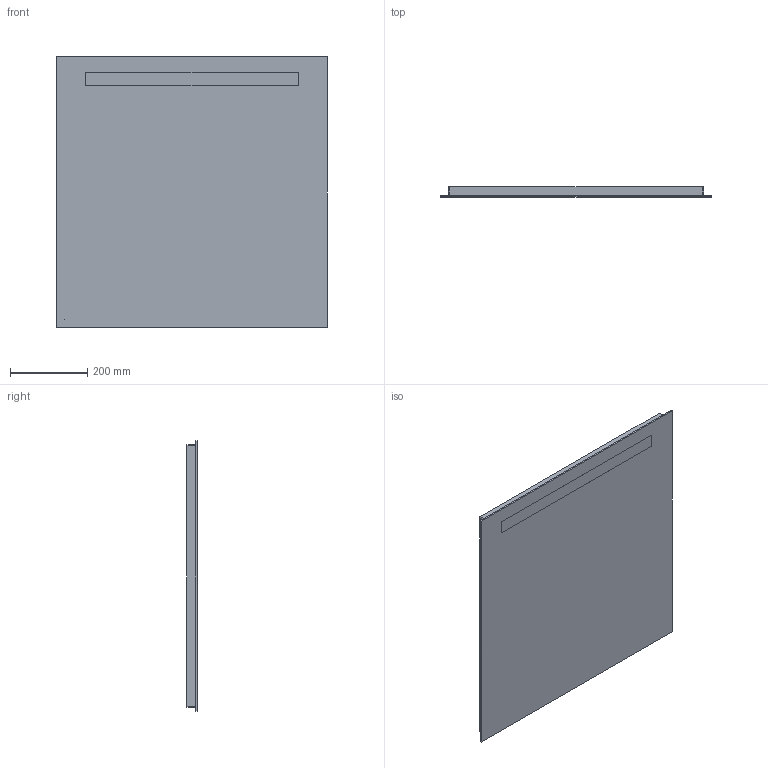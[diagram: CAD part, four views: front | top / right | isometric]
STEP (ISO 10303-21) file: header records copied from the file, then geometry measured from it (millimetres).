
FILE_DESCRIPTION(/* description */ (''),/* implementation_level */ '2;1');
FILE_NAME(/* name */ 'C:\Planerdaten\Export PLA\502.806.00.1\stp\502806.stp',/* time_stamp */ '2022-12-02T15:10:27+01:00',/* author */ ('JANAN'),/* organization */ (''),/* preprocessor_version */ 'ST-DEVELOPER v18.1',/* originating_system */ 'Autodesk Inventor 2021',/* authorisation */ '');
FILE_SCHEMA (('AUTOMOTIVE_DESIGN { 1 0 10303 214 3 1 1 }'));
Length unit declared in the file: millimetre
Products named in the file (1): tmpE1FF.tmp
Bounding box: 700 x 26 x 700 mm (x, y, z)
Volume: 11829494.4 mm3; surface area: 1948753.5 mm2
Topology: 2 solids, 2 shells, 29 faces, 68 edges, 48 vertices
Faces by surface type: plane 21, cylinder 8
Full cylindrical faces by diameter (mm): 8 x4
Entity records: 937 total; most frequent: DIRECTION 152, CARTESIAN_POINT 146, ORIENTED_EDGE 136, EDGE_CURVE 68, AXIS2_PLACEMENT_3D 54, VERTEX_POINT 48, LINE 44, VECTOR 44
